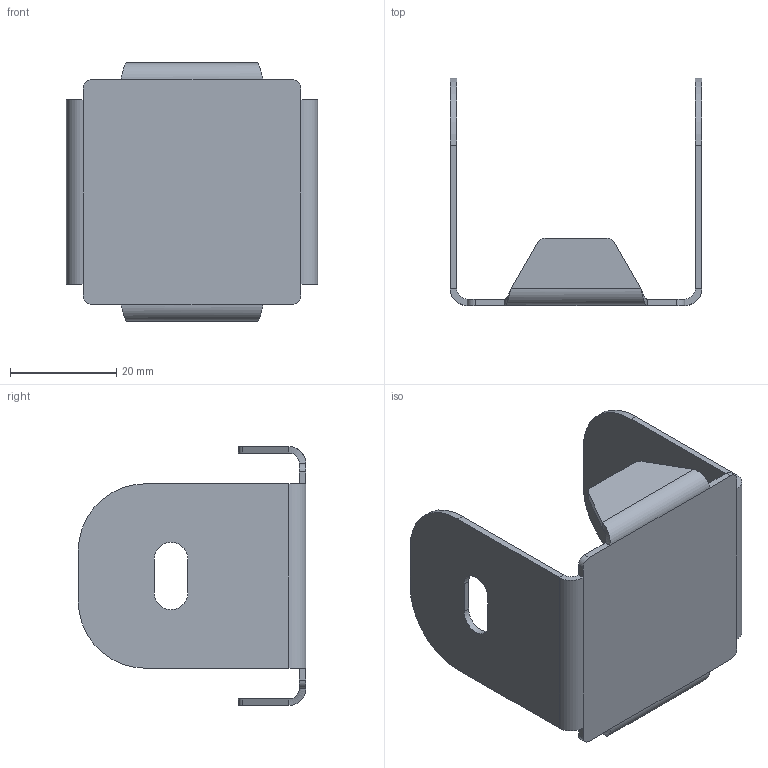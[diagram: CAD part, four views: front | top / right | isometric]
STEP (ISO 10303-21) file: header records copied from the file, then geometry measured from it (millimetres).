
FILE_DESCRIPTION (( 'STEP AP214' ), '1' );
FILE_NAME ('cts22cpss.STEP', '2007-05-29T18:25:10', ( '' ), ( '' ), 'SwSTEP 2.0', 'SolidWorks 2007', '' );
FILE_SCHEMA (( 'AUTOMOTIVE_DESIGN' ));
Length unit declared in the file: inch
Products named in the file (1): cts22cpss
Bounding box: 47.41 x 42.93 x 48.81 mm (x, y, z)
Volume: 6159 mm3; surface area: 10651.3 mm2
Topology: 1 solids, 1 shells, 68 faces, 166 edges, 100 vertices
Faces by surface type: plane 38, cylinder 26, bspline 4
Entity records: 2233 total; most frequent: CARTESIAN_POINT 603, ORIENTED_EDGE 332, DIRECTION 332, EDGE_CURVE 166, VECTOR 114, LINE 114, AXIS2_PLACEMENT_3D 109, VERTEX_POINT 100
